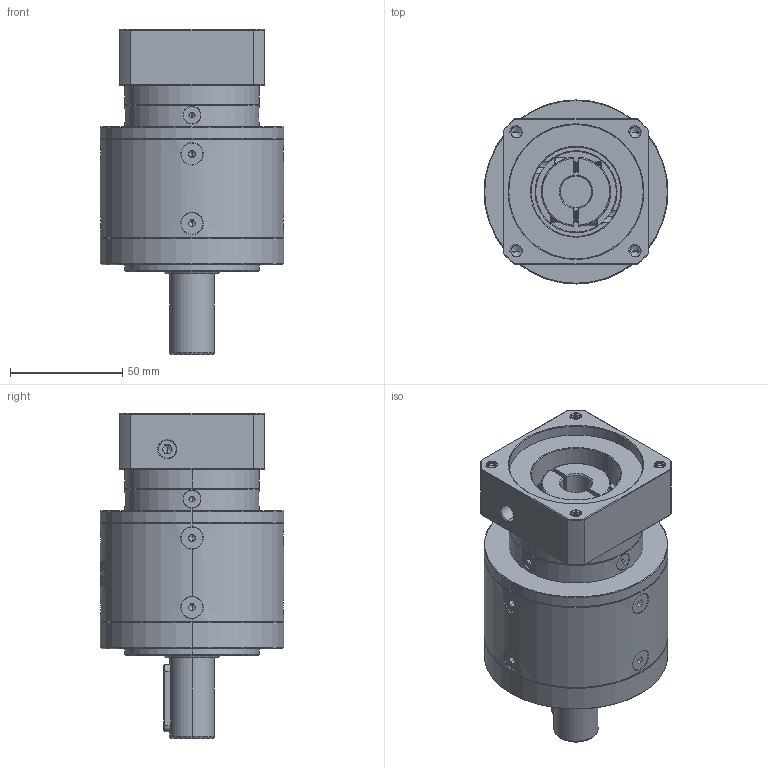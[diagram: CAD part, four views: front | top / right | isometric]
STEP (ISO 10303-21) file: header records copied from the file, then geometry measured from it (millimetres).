
FILE_DESCRIPTION (( 'STEP AP214' ), '1' );
FILE_NAME ('ZE080-D20-L2-P2-14-60-75-M6.step', '2023-08-25T11:12:44', ( '' ), ( '' ), 'SwSTEP 2.0', 'SolidWorks 2016', '' );
FILE_SCHEMA (( 'AUTOMOTIVE_DESIGN' ));
Length unit declared in the file: millimetre
Products named in the file (1): ZE080-D20-L2-P2-14-60-75-M6
Bounding box: 82 x 82 x 145 mm (x, y, z)
Volume: 455802.3 mm3; surface area: 66539.7 mm2
Topology: 18 solids, 18 shells, 2271 faces, 5988 edges, 3814 vertices
Faces by surface type: plane 1115, cylinder 407, bspline 394, cone 313, torus 42
Entity records: 120999 total; most frequent: CARTESIAN_POINT 44862, ORIENTED_EDGE 11884, DIRECTION 8909, EDGE_CURVE 5942, VERTEX_POINT 3814, LINE 3163, VECTOR 3163, AXIS2_PLACEMENT_3D 2873
